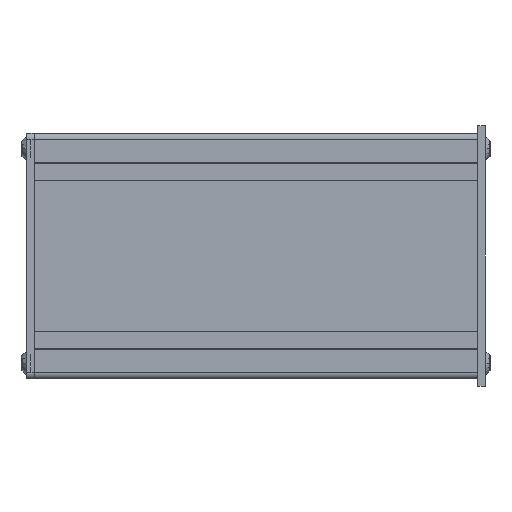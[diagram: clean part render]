
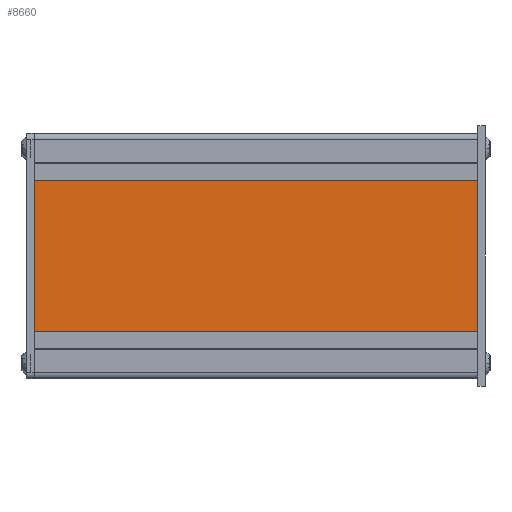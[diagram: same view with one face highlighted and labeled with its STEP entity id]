
A CAD part, left-side view. The second image highlights one B-rep face of the part: STEP entity #8660.
In plain terms, the highlighted planar face has unit normal (-1, 0, 0).
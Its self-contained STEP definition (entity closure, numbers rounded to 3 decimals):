
#952=PLANE('',#9524);
#1250=FACE_OUTER_BOUND('',#1790,.T.);
#1790=EDGE_LOOP('',(#6637,#6638,#6639,#6640));
#2564=LINE('',#13700,#3252);
#2574=LINE('',#13721,#3262);
#2575=LINE('',#13723,#3263);
#2576=LINE('',#13724,#3264);
#3252=VECTOR('',#10976,10.);
#3262=VECTOR('',#10994,10.);
#3263=VECTOR('',#10995,10.);
#3264=VECTOR('',#10996,10.);
#4260=VERTEX_POINT('',#13693);
#4263=VERTEX_POINT('',#13698);
#4270=VERTEX_POINT('',#13720);
#4271=VERTEX_POINT('',#13722);
#5115=EDGE_CURVE('',#4260,#4263,#2564,.T.);
#5125=EDGE_CURVE('',#4260,#4270,#2574,.T.);
#5126=EDGE_CURVE('',#4271,#4263,#2575,.T.);
#5127=EDGE_CURVE('',#4270,#4271,#2576,.T.);
#6637=ORIENTED_EDGE('',*,*,#5125,.F.);
#6638=ORIENTED_EDGE('',*,*,#5115,.T.);
#6639=ORIENTED_EDGE('',*,*,#5126,.F.);
#6640=ORIENTED_EDGE('',*,*,#5127,.F.);
#8660=ADVANCED_FACE('',(#1250),#952,.T.);
#9524=AXIS2_PLACEMENT_3D('',#13719,#10992,#10993);
#10976=DIRECTION('',(0.,1.,0.));
#10992=DIRECTION('center_axis',(-1.,0.,0.));
#10993=DIRECTION('ref_axis',(0.,0.,1.));
#10994=DIRECTION('',(0.,0.,-1.));
#10995=DIRECTION('',(0.,0.,1.));
#10996=DIRECTION('',(0.,1.,0.));
#13693=CARTESIAN_POINT('',(239.,0.,-18.65));
#13698=CARTESIAN_POINT('',(239.,150.,-18.65));
#13700=CARTESIAN_POINT('',(239.,0.,-18.65));
#13719=CARTESIAN_POINT('Origin',(239.,0.,-69.45));
#13720=CARTESIAN_POINT('',(239.,0.,-69.45));
#13721=CARTESIAN_POINT('',(239.,0.,-44.05));
#13722=CARTESIAN_POINT('',(239.,150.,-69.45));
#13723=CARTESIAN_POINT('',(239.,150.,-44.05));
#13724=CARTESIAN_POINT('',(239.,0.,-69.45));
